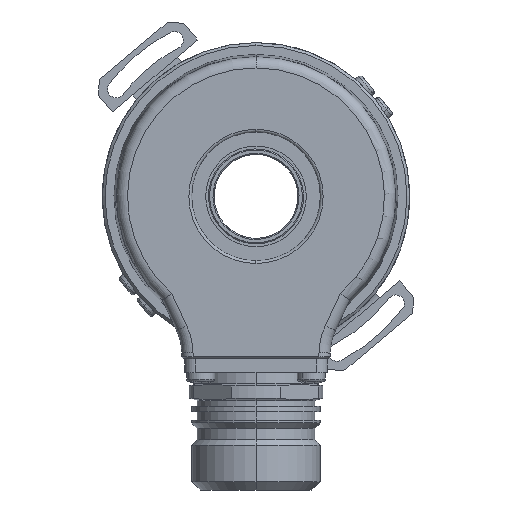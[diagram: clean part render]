
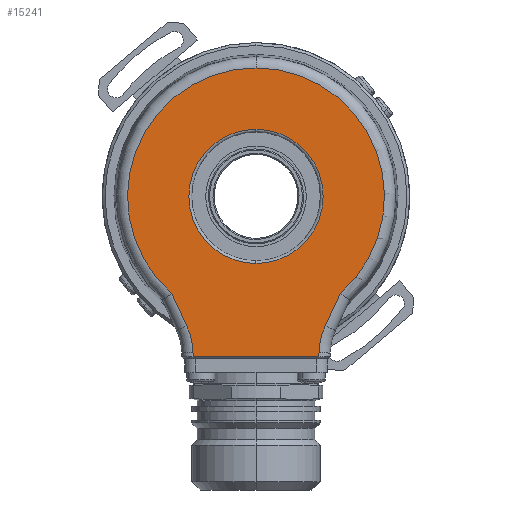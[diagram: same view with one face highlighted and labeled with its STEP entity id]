
A CAD part, left-side view. The second image highlights one B-rep face of the part: STEP entity #15241.
In plain terms, the highlighted planar face has unit normal (-1, 0, 0).
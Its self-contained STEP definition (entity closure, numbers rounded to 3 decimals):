
#6852 = CARTESIAN_POINT ( 'NONE',  ( -21., -11.268, -27.974 ) ) ;
#7216 = CARTESIAN_POINT ( 'NONE',  ( -21., -12.39, -23.112 ) ) ;
#7272 = DIRECTION ( 'NONE',  ( 0., 0., 1. ) ) ;
#7273 = DIRECTION ( 'NONE',  ( -1., 0., 0. ) ) ;
#7274 = CARTESIAN_POINT ( 'NONE',  ( -21., 0., 0. ) ) ;
#7275 = AXIS2_PLACEMENT_3D ( 'NONE', #7274, #7273, #7272 ) ;
#7276 = CIRCLE ( 'NONE', #7275, 22.972 ) ;
#7322 = CARTESIAN_POINT ( 'NONE',  ( -21., -14.953, -17.615 ) ) ;
#7344 = DIRECTION ( 'NONE',  ( 0., -0.423, 0.906 ) ) ;
#7345 = VECTOR ( 'NONE', #7344, 1000. ) ;
#7347 = LINE ( 'NONE', #7322, #7345 ) ;
#7348 = CARTESIAN_POINT ( 'NONE',  ( -21., -15.091, -17.32 ) ) ;
#7349 = DIRECTION ( 'NONE',  ( 0., 0., 1. ) ) ;
#7350 = DIRECTION ( 'NONE',  ( 1., 0., 0. ) ) ;
#7351 = CARTESIAN_POINT ( 'NONE',  ( -21., -23.266, -28.183 ) ) ;
#7352 = AXIS2_PLACEMENT_3D ( 'NONE', #7351, #7350, #7349 ) ;
#7356 = CIRCLE ( 'NONE', #7352, 12. ) ;
#7422 = DIRECTION ( 'NONE',  ( 0., 0., 1. ) ) ;
#7457 = CARTESIAN_POINT ( 'NONE',  ( -21., 15.091, -17.32 ) ) ;
#7458 = CARTESIAN_POINT ( 'NONE',  ( -21., 0., 22.972 ) ) ;
#7459 = DIRECTION ( 'NONE',  ( 0., 0., 1. ) ) ;
#7460 = DIRECTION ( 'NONE',  ( -1., 0., 0. ) ) ;
#7461 = CARTESIAN_POINT ( 'NONE',  ( -21., 0., 0. ) ) ;
#7462 = AXIS2_PLACEMENT_3D ( 'NONE', #7461, #7460, #7459 ) ;
#7463 = CIRCLE ( 'NONE', #7462, 22.972 ) ;
#7474 = DIRECTION ( 'NONE',  ( 1., 0., 0. ) ) ;
#7475 = CARTESIAN_POINT ( 'NONE',  ( -21., 0., 0. ) ) ;
#7476 = AXIS2_PLACEMENT_3D ( 'NONE', #7475, #7474, #7422 ) ;
#7477 = CIRCLE ( 'NONE', #7476, 12. ) ;
#7483 = CARTESIAN_POINT ( 'NONE',  ( -21., 0., -12. ) ) ;
#7552 = CARTESIAN_POINT ( 'NONE',  ( -21., 0., 12. ) ) ;
#7809 = DIRECTION ( 'NONE',  ( 0., -1., 0. ) ) ;
#7810 = VECTOR ( 'NONE', #7809, 1000. ) ;
#7811 = CARTESIAN_POINT ( 'NONE',  ( -21., -11.25, -28.695 ) ) ;
#7812 = LINE ( 'NONE', #7811, #7810 ) ;
#7982 = CARTESIAN_POINT ( 'NONE',  ( -21., -11.255, -28.695 ) ) ;
#8220 = DIRECTION ( 'NONE',  ( 0., -0.423, -0.906 ) ) ;
#8221 = VECTOR ( 'NONE', #8220, 1000. ) ;
#8222 = CARTESIAN_POINT ( 'NONE',  ( -21., 12.39, -23.112 ) ) ;
#8223 = LINE ( 'NONE', #8222, #8221 ) ;
#8224 = CARTESIAN_POINT ( 'NONE',  ( -21., 12.39, -23.112 ) ) ;
#8419 = DIRECTION ( 'NONE',  ( 0., 0., 1. ) ) ;
#8420 = DIRECTION ( 'NONE',  ( 1., 0., 0. ) ) ;
#8421 = CARTESIAN_POINT ( 'NONE',  ( -21., 23.266, -28.183 ) ) ;
#8422 = AXIS2_PLACEMENT_3D ( 'NONE', #8421, #8420, #8419 ) ;
#8423 = CIRCLE ( 'NONE', #8422, 12. ) ;
#8425 = CARTESIAN_POINT ( 'NONE',  ( -21., 11.268, -27.974 ) ) ;
#8703 = CARTESIAN_POINT ( 'NONE',  ( -21., 11.255, -28.695 ) ) ;
#8793 = DIRECTION ( 'NONE',  ( 0., -0.017, -1. ) ) ;
#8794 = VECTOR ( 'NONE', #8793, 1000. ) ;
#8795 = CARTESIAN_POINT ( 'NONE',  ( -21., 11.752, -0.205 ) ) ;
#8796 = LINE ( 'NONE', #8795, #8794 ) ;
#8821 = LINE ( 'NONE', #8908, #8907 ) ;
#8823 = DIRECTION ( 'NONE',  ( 0., 0., 1. ) ) ;
#8824 = DIRECTION ( 'NONE',  ( 1., 0., 0. ) ) ;
#8825 = CARTESIAN_POINT ( 'NONE',  ( -21., 0., 0. ) ) ;
#8826 = AXIS2_PLACEMENT_3D ( 'NONE', #8825, #8824, #8823 ) ;
#8827 = PLANE ( 'NONE',  #8826 ) ;
#8842 = FACE_OUTER_BOUND ( 'NONE', #15245, .T. ) ;
#8843 = FACE_BOUND ( 'NONE', #15242, .T. ) ;
#8844 = DIRECTION ( 'NONE',  ( 0., 0., 1. ) ) ;
#8845 = DIRECTION ( 'NONE',  ( 1., 0., 0. ) ) ;
#8846 = CARTESIAN_POINT ( 'NONE',  ( -21., 0., 0. ) ) ;
#8847 = AXIS2_PLACEMENT_3D ( 'NONE', #8846, #8845, #8844 ) ;
#8874 = CIRCLE ( 'NONE', #8847, 12. ) ;
#8906 = DIRECTION ( 'NONE',  ( 0., -0.017, 1. ) ) ;
#8907 = VECTOR ( 'NONE', #8906, 1000. ) ;
#8908 = CARTESIAN_POINT ( 'NONE',  ( -21., -11.752, -0.205 ) ) ;
#14653 = VERTEX_POINT ( 'NONE', #6852 ) ;
#14660 = VERTEX_POINT ( 'NONE', #7216 ) ;
#14744 = VERTEX_POINT ( 'NONE', #7483 ) ;
#14747 = EDGE_CURVE ( 'NONE', #14835, #14744, #7477, .T. ) ;
#14757 = EDGE_CURVE ( 'NONE', #14653, #14660, #7356, .T. ) ;
#14760 = VERTEX_POINT ( 'NONE', #7348 ) ;
#14762 = EDGE_CURVE ( 'NONE', #14660, #14760, #7347, .T. ) ;
#14768 = EDGE_CURVE ( 'NONE', #14760, #14773, #7276, .T. ) ;
#14772 = EDGE_CURVE ( 'NONE', #14773, #14774, #7463, .T. ) ;
#14773 = VERTEX_POINT ( 'NONE', #7458 ) ;
#14774 = VERTEX_POINT ( 'NONE', #7457 ) ;
#14835 = VERTEX_POINT ( 'NONE', #7552 ) ;
#14952 = EDGE_CURVE ( 'NONE', #15190, #15002, #7812, .T. ) ;
#15002 = VERTEX_POINT ( 'NONE', #7982 ) ;
#15064 = VERTEX_POINT ( 'NONE', #8224 ) ;
#15066 = EDGE_CURVE ( 'NONE', #14774, #15064, #8223, .T. ) ;
#15119 = VERTEX_POINT ( 'NONE', #8425 ) ;
#15121 = EDGE_CURVE ( 'NONE', #15064, #15119, #8423, .T. ) ;
#15190 = VERTEX_POINT ( 'NONE', #8703 ) ;
#15223 = EDGE_CURVE ( 'NONE', #15119, #15190, #8796, .T. ) ;
#15240 = EDGE_CURVE ( 'NONE', #14744, #14835, #8874, .T. ) ;
#15241 = ADVANCED_FACE ( 'NONE', ( #8843, #8842 ), #8827, .F. ) ;
#15242 = EDGE_LOOP ( 'NONE', ( #15243, #15244 ) ) ;
#15243 = ORIENTED_EDGE ( 'NONE', *, *, #14747, .T. ) ;
#15244 = ORIENTED_EDGE ( 'NONE', *, *, #15240, .T. ) ;
#15245 = EDGE_LOOP ( 'NONE', ( #15246, #15247, #15248, #15250, #15251, #15252, #15253, #15254, #15255 ) ) ;
#15246 = ORIENTED_EDGE ( 'NONE', *, *, #15223, .T. ) ;
#15247 = ORIENTED_EDGE ( 'NONE', *, *, #14952, .T. ) ;
#15248 = ORIENTED_EDGE ( 'NONE', *, *, #15249, .T. ) ;
#15249 = EDGE_CURVE ( 'NONE', #15002, #14653, #8821, .T. ) ;
#15250 = ORIENTED_EDGE ( 'NONE', *, *, #14757, .T. ) ;
#15251 = ORIENTED_EDGE ( 'NONE', *, *, #14762, .T. ) ;
#15252 = ORIENTED_EDGE ( 'NONE', *, *, #14768, .T. ) ;
#15253 = ORIENTED_EDGE ( 'NONE', *, *, #14772, .T. ) ;
#15254 = ORIENTED_EDGE ( 'NONE', *, *, #15066, .T. ) ;
#15255 = ORIENTED_EDGE ( 'NONE', *, *, #15121, .T. ) ;
